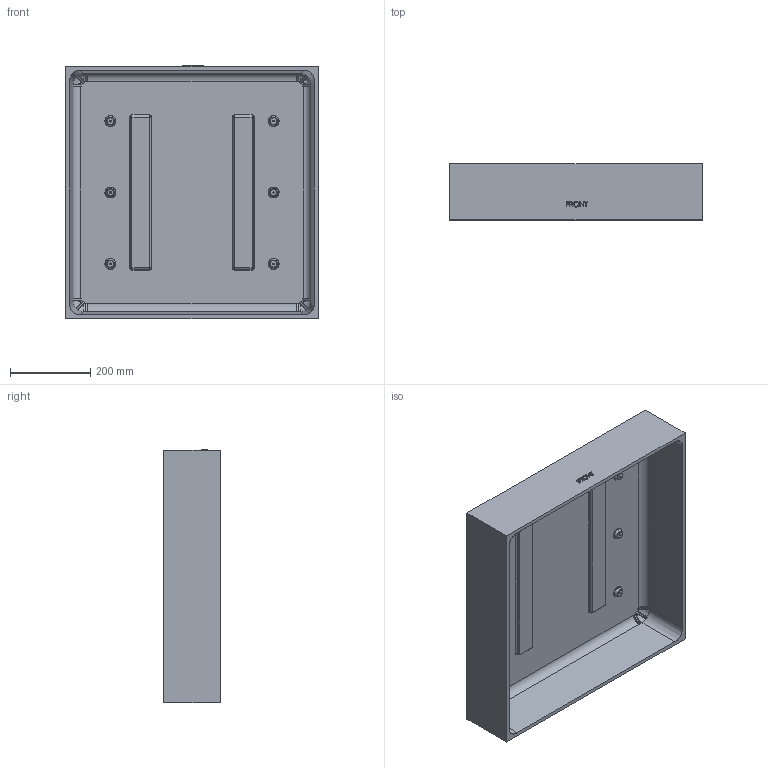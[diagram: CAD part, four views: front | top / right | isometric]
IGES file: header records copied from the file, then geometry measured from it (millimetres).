
Start section: SolidWorks IGES file using analytic representation for surfaces
Global section: file name: C:\working\OEM\0370-TOP-OEM.IGS; native system: SolidWorks 2007; preprocessor: SolidWorks 2007; author: darato; date: 080812.084005; units: inch
Bounding box: 628.62 x 139.7 x 631.16 mm (x, y, z)
Surface area: 1421616.4 mm2 (no closed solid volume)
Topology: 0 solids, 0 shells, 256 faces, 3144 edges, 3132 vertices
Faces by surface type: bspline 180, revolution 76
